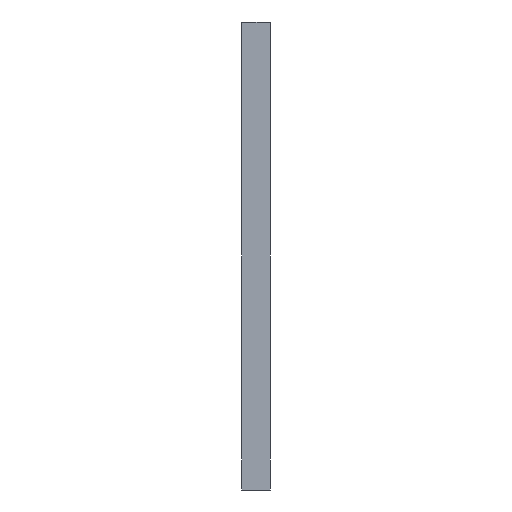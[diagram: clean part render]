
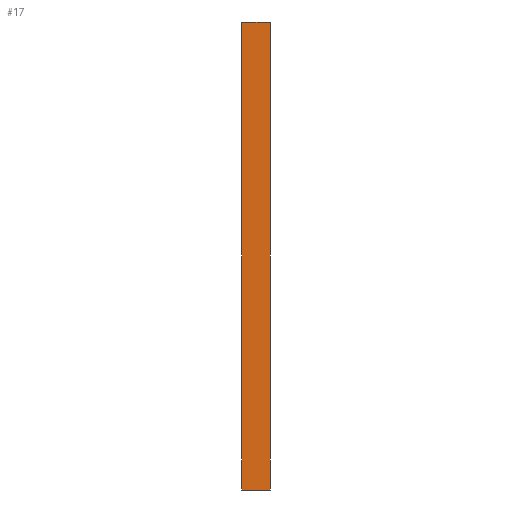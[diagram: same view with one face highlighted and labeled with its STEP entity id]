
A CAD part, left-side view. The second image highlights one B-rep face of the part: STEP entity #17.
In plain terms, the highlighted planar face has unit normal (-1, 0, 0).
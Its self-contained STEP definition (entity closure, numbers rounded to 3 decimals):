
#17 = ADVANCED_FACE('',(#18),#32,.F.);
#18 = FACE_BOUND('',#19,.F.);
#19 = EDGE_LOOP('',(#20,#55,#83,#111));
#20 = ORIENTED_EDGE('',*,*,#21,.F.);
#21 = EDGE_CURVE('',#22,#24,#26,.T.);
#22 = VERTEX_POINT('',#23);
#23 = CARTESIAN_POINT('',(-23.,-24.4,-53.));
#24 = VERTEX_POINT('',#25);
#25 = CARTESIAN_POINT('',(-23.,-24.4,-13.));
#26 = SURFACE_CURVE('',#27,(#31,#43),.PCURVE_S1.);
#27 = LINE('',#28,#29);
#28 = CARTESIAN_POINT('',(-23.,-24.4,-53.));
#29 = VECTOR('',#30,1.);
#30 = DIRECTION('',(0.,0.,1.));
#31 = PCURVE('',#32,#37);
#32 = PLANE('',#33);
#33 = AXIS2_PLACEMENT_3D('',#34,#35,#36);
#34 = CARTESIAN_POINT('',(-23.,-24.4,-53.));
#35 = DIRECTION('',(1.,0.,0.));
#36 = DIRECTION('',(0.,0.,1.));
#37 = DEFINITIONAL_REPRESENTATION('',(#38),#42);
#38 = LINE('',#39,#40);
#39 = CARTESIAN_POINT('',(0.,0.));
#40 = VECTOR('',#41,1.);
#41 = DIRECTION('',(1.,0.));
#42 = ( GEOMETRIC_REPRESENTATION_CONTEXT(2) 
PARAMETRIC_REPRESENTATION_CONTEXT() REPRESENTATION_CONTEXT('2D SPACE',''
  ) );
#43 = PCURVE('',#44,#49);
#44 = PLANE('',#45);
#45 = AXIS2_PLACEMENT_3D('',#46,#47,#48);
#46 = CARTESIAN_POINT('',(-23.,-24.4,-53.));
#47 = DIRECTION('',(0.,1.,0.));
#48 = DIRECTION('',(0.,-0.,1.));
#49 = DEFINITIONAL_REPRESENTATION('',(#50),#54);
#50 = LINE('',#51,#52);
#51 = CARTESIAN_POINT('',(0.,0.));
#52 = VECTOR('',#53,1.);
#53 = DIRECTION('',(1.,0.));
#54 = ( GEOMETRIC_REPRESENTATION_CONTEXT(2) 
PARAMETRIC_REPRESENTATION_CONTEXT() REPRESENTATION_CONTEXT('2D SPACE',''
  ) );
#55 = ORIENTED_EDGE('',*,*,#56,.T.);
#56 = EDGE_CURVE('',#22,#57,#59,.T.);
#57 = VERTEX_POINT('',#58);
#58 = CARTESIAN_POINT('',(-23.,-22.,-53.));
#59 = SURFACE_CURVE('',#60,(#64,#71),.PCURVE_S1.);
#60 = LINE('',#61,#62);
#61 = CARTESIAN_POINT('',(-23.,-24.4,-53.));
#62 = VECTOR('',#63,1.);
#63 = DIRECTION('',(0.,1.,0.));
#64 = PCURVE('',#32,#65);
#65 = DEFINITIONAL_REPRESENTATION('',(#66),#70);
#66 = LINE('',#67,#68);
#67 = CARTESIAN_POINT('',(0.,0.));
#68 = VECTOR('',#69,1.);
#69 = DIRECTION('',(0.,-1.));
#70 = ( GEOMETRIC_REPRESENTATION_CONTEXT(2) 
PARAMETRIC_REPRESENTATION_CONTEXT() REPRESENTATION_CONTEXT('2D SPACE',''
  ) );
#71 = PCURVE('',#72,#77);
#72 = PLANE('',#73);
#73 = AXIS2_PLACEMENT_3D('',#74,#75,#76);
#74 = CARTESIAN_POINT('',(-23.,-24.4,-53.));
#75 = DIRECTION('',(0.,0.,1.));
#76 = DIRECTION('',(1.,0.,-0.));
#77 = DEFINITIONAL_REPRESENTATION('',(#78),#82);
#78 = LINE('',#79,#80);
#79 = CARTESIAN_POINT('',(0.,0.));
#80 = VECTOR('',#81,1.);
#81 = DIRECTION('',(0.,1.));
#82 = ( GEOMETRIC_REPRESENTATION_CONTEXT(2) 
PARAMETRIC_REPRESENTATION_CONTEXT() REPRESENTATION_CONTEXT('2D SPACE',''
  ) );
#83 = ORIENTED_EDGE('',*,*,#84,.T.);
#84 = EDGE_CURVE('',#57,#85,#87,.T.);
#85 = VERTEX_POINT('',#86);
#86 = CARTESIAN_POINT('',(-23.,-22.,-13.));
#87 = SURFACE_CURVE('',#88,(#92,#99),.PCURVE_S1.);
#88 = LINE('',#89,#90);
#89 = CARTESIAN_POINT('',(-23.,-22.,-53.));
#90 = VECTOR('',#91,1.);
#91 = DIRECTION('',(0.,0.,1.));
#92 = PCURVE('',#32,#93);
#93 = DEFINITIONAL_REPRESENTATION('',(#94),#98);
#94 = LINE('',#95,#96);
#95 = CARTESIAN_POINT('',(0.,-2.4));
#96 = VECTOR('',#97,1.);
#97 = DIRECTION('',(1.,0.));
#98 = ( GEOMETRIC_REPRESENTATION_CONTEXT(2) 
PARAMETRIC_REPRESENTATION_CONTEXT() REPRESENTATION_CONTEXT('2D SPACE',''
  ) );
#99 = PCURVE('',#100,#105);
#100 = PLANE('',#101);
#101 = AXIS2_PLACEMENT_3D('',#102,#103,#104);
#102 = CARTESIAN_POINT('',(-23.,-22.,-53.));
#103 = DIRECTION('',(0.,1.,0.));
#104 = DIRECTION('',(0.,-0.,1.));
#105 = DEFINITIONAL_REPRESENTATION('',(#106),#110);
#106 = LINE('',#107,#108);
#107 = CARTESIAN_POINT('',(0.,0.));
#108 = VECTOR('',#109,1.);
#109 = DIRECTION('',(1.,0.));
#110 = ( GEOMETRIC_REPRESENTATION_CONTEXT(2) 
PARAMETRIC_REPRESENTATION_CONTEXT() REPRESENTATION_CONTEXT('2D SPACE',''
  ) );
#111 = ORIENTED_EDGE('',*,*,#112,.F.);
#112 = EDGE_CURVE('',#24,#85,#113,.T.);
#113 = SURFACE_CURVE('',#114,(#118,#125),.PCURVE_S1.);
#114 = LINE('',#115,#116);
#115 = CARTESIAN_POINT('',(-23.,-24.4,-13.));
#116 = VECTOR('',#117,1.);
#117 = DIRECTION('',(0.,1.,0.));
#118 = PCURVE('',#32,#119);
#119 = DEFINITIONAL_REPRESENTATION('',(#120),#124);
#120 = LINE('',#121,#122);
#121 = CARTESIAN_POINT('',(40.,0.));
#122 = VECTOR('',#123,1.);
#123 = DIRECTION('',(0.,-1.));
#124 = ( GEOMETRIC_REPRESENTATION_CONTEXT(2) 
PARAMETRIC_REPRESENTATION_CONTEXT() REPRESENTATION_CONTEXT('2D SPACE',''
  ) );
#125 = PCURVE('',#126,#131);
#126 = PLANE('',#127);
#127 = AXIS2_PLACEMENT_3D('',#128,#129,#130);
#128 = CARTESIAN_POINT('',(-23.,-24.4,-13.));
#129 = DIRECTION('',(0.,0.,1.));
#130 = DIRECTION('',(1.,0.,-0.));
#131 = DEFINITIONAL_REPRESENTATION('',(#132),#136);
#132 = LINE('',#133,#134);
#133 = CARTESIAN_POINT('',(0.,0.));
#134 = VECTOR('',#135,1.);
#135 = DIRECTION('',(0.,1.));
#136 = ( GEOMETRIC_REPRESENTATION_CONTEXT(2) 
PARAMETRIC_REPRESENTATION_CONTEXT() REPRESENTATION_CONTEXT('2D SPACE',''
  ) );
